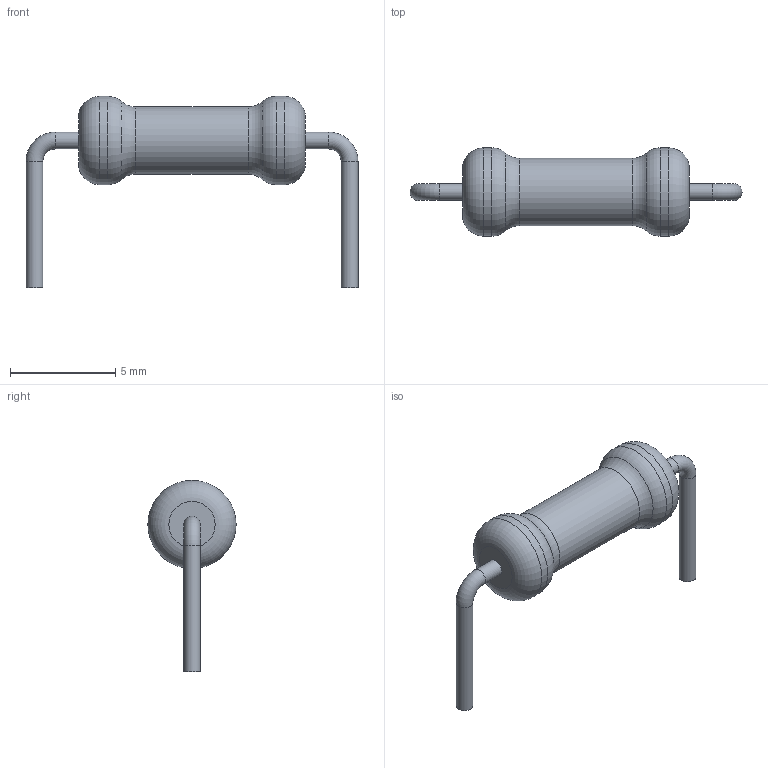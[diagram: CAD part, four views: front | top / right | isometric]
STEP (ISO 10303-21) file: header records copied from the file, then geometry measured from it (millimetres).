
FILE_DESCRIPTION(('STEP AP203'), '1');
FILE_NAME('R1-32-0.25(1)', '', ('UNSPECIFIED'), ('UNSPECIFIED'), 'ASCON STEP Converter 1.6', 'ASCON Math Kernel', '');
FILE_SCHEMA(('CONFIG_CONTROL_DESIGN'));
Length unit declared in the file: millimetre
Bounding box: 15.8 x 4.2 x 9.1 mm (x, y, z)
Volume: 114.2 mm3; surface area: 183.5 mm2
Topology: 1 solids, 1 shells, 19 faces, 33 edges, 18 vertices
Faces by surface type: torus 8, cylinder 7, plane 4
Full cylindrical faces by diameter (mm): 0.8 x4, 3.2 x1, 4.2 x2
Entity records: 570 total; most frequent: DIRECTION 76, CARTESIAN_POINT 56, AXIS2_PLACEMENT_3D 38, EDGE_LOOP 36, ORIENTED_EDGE 36, FACE_OUTER_BOUND 30, COLOUR_RGB 20, FILL_AREA_STYLE_COLOUR 20
